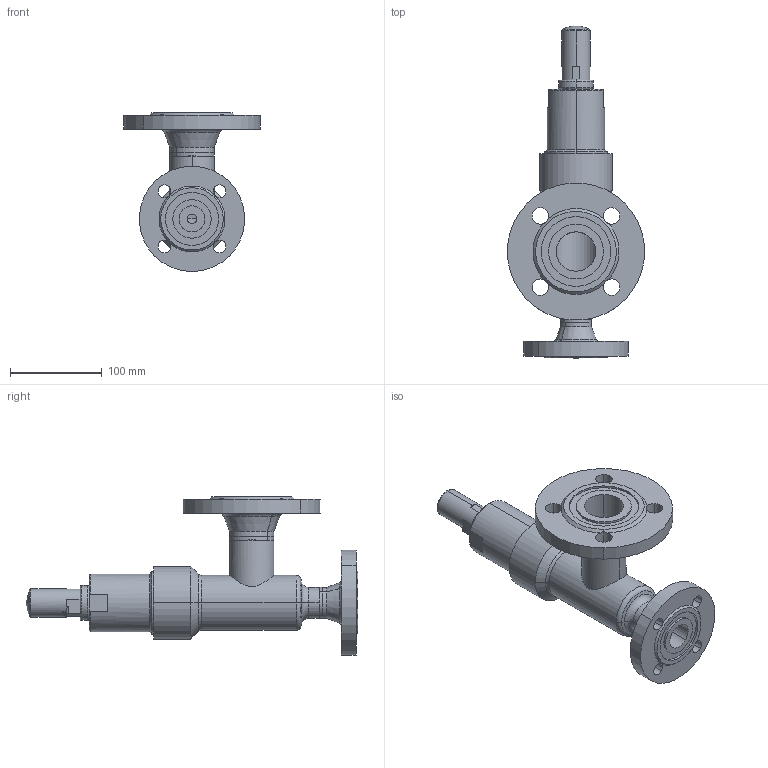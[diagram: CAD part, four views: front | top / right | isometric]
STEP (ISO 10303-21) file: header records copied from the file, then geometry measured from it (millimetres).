
FILE_DESCRIPTION (( 'STEP AP214' ), '1' );
FILE_NAME ('SVA 45620D12-DN25(40)_DIN.STEP', '2010-06-07T11:10:02', ( 'Eckhard Grams' ), ( 'AWP Kälte Klima Armaturen GmbH' ), 'SwSTEP 2.0', 'SolidWorks 2002296', '' );
FILE_SCHEMA (( 'AUTOMOTIVE_DESIGN' ));
Length unit declared in the file: millimetre
Products named in the file (11): SVA 45620D12-DN25(40)_DIN; Haube 45700E11-5260003_DN20-25; Gehkpl 45720E12-5030001; Geh 45700E12-5034004_DN25; Rohrstutzen-A 45700E12-5036004_DN25(40)_Standard; bead Geh,kpl 45720E12-1_Standard; Flansch-DIN2635-Nut_PS40_DIN-Flansch-DN025_PS40-Nut; Flansch-DIN2635-Nut_PS40_DIN-Flansch-DN040_PS40-Nut; bead Geh,kpl 45720E12-2_Standard; Flachdichtg-Alu-DN20-25; Kappe SVA-SVU-ORV_DN10-40 (M27x1,5)_Standard
Assembly tree (10 placements, depth 3):
  SVA 45620D12-DN25(40)_DIN
    Haube 45700E11-5260003_DN20-25
    Flachdichtg-Alu-DN20-25
    Kappe SVA-SVU-ORV_DN10-40 (M27x1,5)_Standard
    Gehkpl 45720E12-5030001
      Geh 45700E12-5034004_DN25
      bead Geh,kpl 45720E12-1_Standard
      Flansch-DIN2635-Nut_PS40_DIN-Flansch-DN025_PS40-Nut
      Flansch-DIN2635-Nut_PS40_DIN-Flansch-DN040_PS40-Nut
      bead Geh,kpl 45720E12-2_Standard
      Rohrstutzen-A 45700E12-5036004_DN25(40)_Standard
Bounding box: 149.43 x 362.5 x 173.28 mm (x, y, z)
Volume: 825269.4 mm3; surface area: 229843.1 mm2
Topology: 9 solids, 9 shells, 255 faces, 614 edges, 385 vertices
Faces by surface type: cylinder 123, plane 49, cone 43, torus 26, bspline 10, sphere 4
Entity records: 13982 total; most frequent: CARTESIAN_POINT 7291, DIRECTION 1306, ORIENTED_EDGE 1228, EDGE_CURVE 614, AXIS2_PLACEMENT_3D 553, VERTEX_POINT 385, EDGE_LOOP 299, CIRCLE 294
